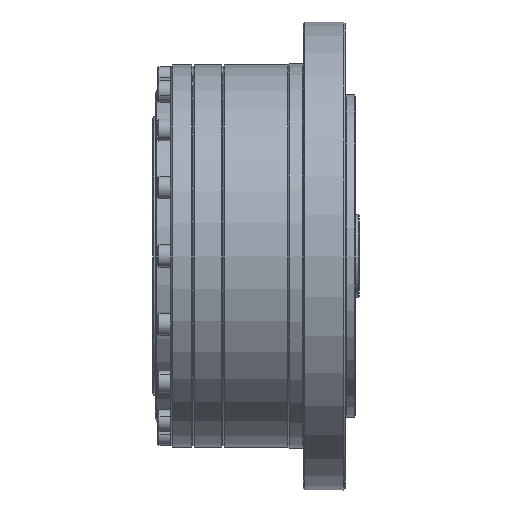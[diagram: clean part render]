
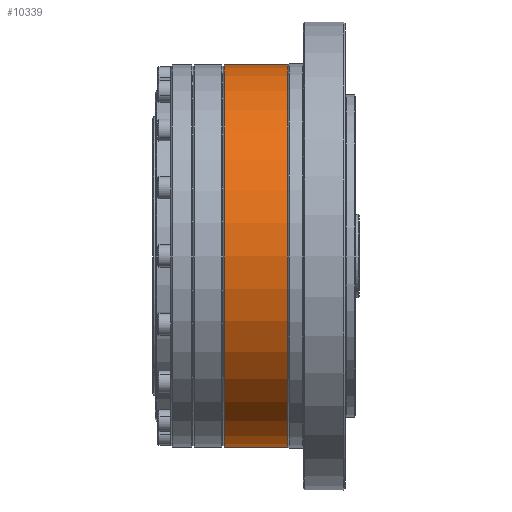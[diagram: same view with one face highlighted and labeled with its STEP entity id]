
A CAD part, front view. The second image highlights one B-rep face of the part: STEP entity #10339.
In plain terms, the highlighted cylindrical face has radius 73.5 mm (diameter 147 mm), a partial arc.
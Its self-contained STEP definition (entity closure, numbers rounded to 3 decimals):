
#253 = EDGE_CURVE ( 'NONE', #7357, #1806, #3874, .T. ) ;
#893 = EDGE_CURVE ( 'NONE', #6192, #1832, #8893, .T. ) ;
#1525 = CARTESIAN_POINT ( 'NONE',  ( -10.06, 2.53, 253.5 ) ) ;
#1780 = DIRECTION ( 'NONE',  ( 0., 0., -1. ) ) ;
#1806 = VERTEX_POINT ( 'NONE', #1525 ) ;
#1832 = VERTEX_POINT ( 'NONE', #1920 ) ;
#1920 = CARTESIAN_POINT ( 'NONE',  ( -10.06, 2.53, 106.5 ) ) ;
#2146 = DIRECTION ( 'NONE',  ( 1., 0., 0. ) ) ;
#3267 = CIRCLE ( 'NONE', #14954, 73.5 ) ;
#3874 = LINE ( 'NONE', #17166, #10552 ) ;
#4220 = FACE_OUTER_BOUND ( 'NONE', #14983, .T. ) ;
#4562 = ORIENTED_EDGE ( 'NONE', *, *, #8508, .T. ) ;
#5045 = CARTESIAN_POINT ( 'NONE',  ( 35.507, 2.53, 106.5 ) ) ;
#5670 = DIRECTION ( 'NONE',  ( 0., 0., -1. ) ) ;
#6192 = VERTEX_POINT ( 'NONE', #12685 ) ;
#7224 = DIRECTION ( 'NONE',  ( 1., 0., 0. ) ) ;
#7242 = CARTESIAN_POINT ( 'NONE',  ( 35.507, 2.53, 180. ) ) ;
#7357 = VERTEX_POINT ( 'NONE', #15016 ) ;
#7819 = DIRECTION ( 'NONE',  ( 1., 0., 0. ) ) ;
#7820 = CYLINDRICAL_SURFACE ( 'NONE', #17313, 73.5 ) ;
#7942 = ORIENTED_EDGE ( 'NONE', *, *, #11904, .F. ) ;
#8508 = EDGE_CURVE ( 'NONE', #7357, #6192, #16232, .T. ) ;
#8893 = LINE ( 'NONE', #5045, #16018 ) ;
#9254 = ORIENTED_EDGE ( 'NONE', *, *, #253, .F. ) ;
#10339 = ADVANCED_FACE ( 'NONE', ( #4220 ), #7820, .T. ) ;
#10552 = VECTOR ( 'NONE', #17068, 1000. ) ;
#11485 = CARTESIAN_POINT ( 'NONE',  ( -34.56, 2.53, 180. ) ) ;
#11904 = EDGE_CURVE ( 'NONE', #1806, #1832, #3267, .T. ) ;
#12151 = AXIS2_PLACEMENT_3D ( 'NONE', #11485, #2146, #1780 ) ;
#12685 = CARTESIAN_POINT ( 'NONE',  ( -34.56, 2.53, 106.5 ) ) ;
#14747 = DIRECTION ( 'NONE',  ( 1., 0., 0. ) ) ;
#14954 = AXIS2_PLACEMENT_3D ( 'NONE', #16915, #7819, #18472 ) ;
#14983 = EDGE_LOOP ( 'NONE', ( #9254, #4562, #17774, #7942 ) ) ;
#15016 = CARTESIAN_POINT ( 'NONE',  ( -34.56, 2.53, 253.5 ) ) ;
#16018 = VECTOR ( 'NONE', #7224, 1000. ) ;
#16232 = CIRCLE ( 'NONE', #12151, 73.5 ) ;
#16915 = CARTESIAN_POINT ( 'NONE',  ( -10.06, 2.53, 180. ) ) ;
#17068 = DIRECTION ( 'NONE',  ( 1., 0., 0. ) ) ;
#17166 = CARTESIAN_POINT ( 'NONE',  ( 35.507, 2.53, 253.5 ) ) ;
#17313 = AXIS2_PLACEMENT_3D ( 'NONE', #7242, #14747, #5670 ) ;
#17774 = ORIENTED_EDGE ( 'NONE', *, *, #893, .T. ) ;
#18472 = DIRECTION ( 'NONE',  ( 0., 0., -1. ) ) ;
